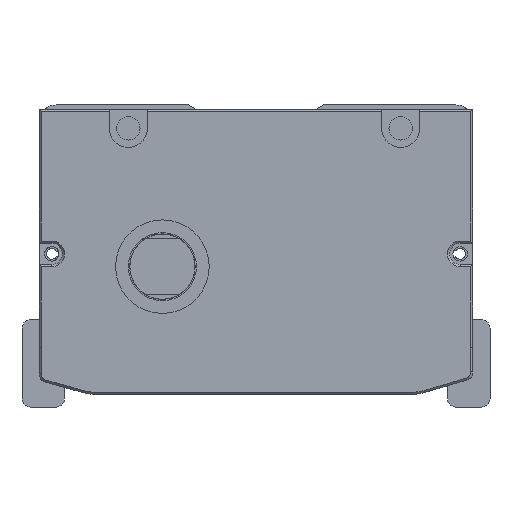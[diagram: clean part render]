
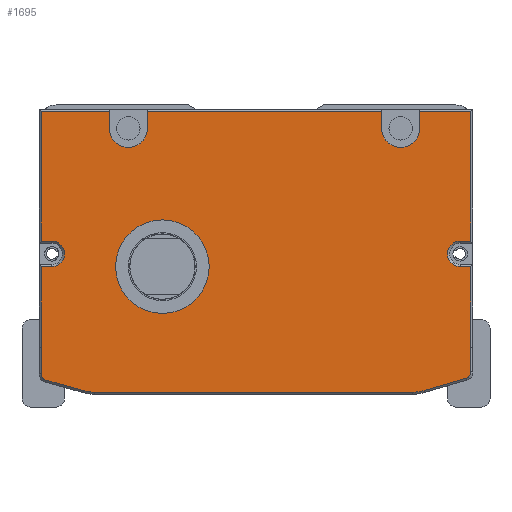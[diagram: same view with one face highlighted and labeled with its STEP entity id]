
A CAD part, front view. The second image highlights one B-rep face of the part: STEP entity #1695.
In plain terms, the highlighted planar face has unit normal (0, -1, 0).
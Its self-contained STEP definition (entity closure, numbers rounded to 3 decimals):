
#1022=FACE_BOUND('',#3565,.T.);
#1023=FACE_BOUND('',#3566,.T.);
#1695=ADVANCED_FACE('',(#1022,#1023),#2390,.F.);
#2390=PLANE('',#14510);
#3565=EDGE_LOOP('',(#6445));
#3566=EDGE_LOOP('',(#6446,#6447,#6448,#6449,#6450,#6451,#6452,#6453,#6454,
#6455,#6456,#6457,#6458,#6459,#6460,#6461,#6462,#6463,#6464,#6465,#6466,
#6467,#6468,#6469,#6470,#6471,#6472,#6473));
#4535=CIRCLE('',#14421,3.);
#4538=CIRCLE('',#14429,3.);
#4541=CIRCLE('',#14441,1.5);
#4543=CIRCLE('',#14445,9.5);
#4545=CIRCLE('',#14449,9.5);
#4547=CIRCLE('',#14453,1.5);
#4552=CIRCLE('',#14468,4.5);
#4556=CIRCLE('',#14474,4.5);
#4557=CIRCLE('',#14483,11.);
#6445=ORIENTED_EDGE('',*,*,#10926,.F.);
#6446=ORIENTED_EDGE('',*,*,#10820,.T.);
#6447=ORIENTED_EDGE('',*,*,#10716,.T.);
#6448=ORIENTED_EDGE('',*,*,#10907,.T.);
#6449=ORIENTED_EDGE('',*,*,#10720,.T.);
#6450=ORIENTED_EDGE('',*,*,#10955,.T.);
#6451=ORIENTED_EDGE('',*,*,#10726,.T.);
#6452=ORIENTED_EDGE('',*,*,#10903,.T.);
#6453=ORIENTED_EDGE('',*,*,#10730,.T.);
#6454=ORIENTED_EDGE('',*,*,#10956,.T.);
#6455=ORIENTED_EDGE('',*,*,#10824,.T.);
#6456=ORIENTED_EDGE('',*,*,#10830,.T.);
#6457=ORIENTED_EDGE('',*,*,#10833,.T.);
#6458=ORIENTED_EDGE('',*,*,#10836,.T.);
#6459=ORIENTED_EDGE('',*,*,#10838,.T.);
#6460=ORIENTED_EDGE('',*,*,#10868,.T.);
#6461=ORIENTED_EDGE('',*,*,#10872,.T.);
#6462=ORIENTED_EDGE('',*,*,#10875,.T.);
#6463=ORIENTED_EDGE('',*,*,#10878,.T.);
#6464=ORIENTED_EDGE('',*,*,#10881,.T.);
#6465=ORIENTED_EDGE('',*,*,#10884,.T.);
#6466=ORIENTED_EDGE('',*,*,#10887,.T.);
#6467=ORIENTED_EDGE('',*,*,#10889,.T.);
#6468=ORIENTED_EDGE('',*,*,#10866,.T.);
#6469=ORIENTED_EDGE('',*,*,#10856,.T.);
#6470=ORIENTED_EDGE('',*,*,#10853,.T.);
#6471=ORIENTED_EDGE('',*,*,#10850,.T.);
#6472=ORIENTED_EDGE('',*,*,#10847,.T.);
#6473=ORIENTED_EDGE('',*,*,#10842,.T.);
#9267=VERTEX_POINT('',#21323);
#9268=VERTEX_POINT('',#21325);
#9271=VERTEX_POINT('',#21332);
#9272=VERTEX_POINT('',#21334);
#9277=VERTEX_POINT('',#21345);
#9278=VERTEX_POINT('',#21347);
#9281=VERTEX_POINT('',#21354);
#9282=VERTEX_POINT('',#21356);
#9340=VERTEX_POINT('',#21542);
#9343=VERTEX_POINT('',#21550);
#9344=VERTEX_POINT('',#21551);
#9349=VERTEX_POINT('',#21562);
#9351=VERTEX_POINT('',#21568);
#9352=VERTEX_POINT('',#21573);
#9354=VERTEX_POINT('',#21579);
#9357=VERTEX_POINT('',#21587);
#9359=VERTEX_POINT('',#21593);
#9361=VERTEX_POINT('',#21599);
#9363=VERTEX_POINT('',#21605);
#9365=VERTEX_POINT('',#21611);
#9372=VERTEX_POINT('',#21635);
#9373=VERTEX_POINT('',#21639);
#9376=VERTEX_POINT('',#21646);
#9378=VERTEX_POINT('',#21652);
#9380=VERTEX_POINT('',#21658);
#9382=VERTEX_POINT('',#21664);
#9384=VERTEX_POINT('',#21670);
#9386=VERTEX_POINT('',#21676);
#9398=VERTEX_POINT('',#21749);
#10716=EDGE_CURVE('',#9268,#9267,#12363,.T.);
#10720=EDGE_CURVE('',#9272,#9271,#12367,.T.);
#10726=EDGE_CURVE('',#9278,#9277,#12373,.T.);
#10730=EDGE_CURVE('',#9282,#9281,#12377,.T.);
#10820=EDGE_CURVE('',#9340,#9268,#12450,.T.);
#10824=EDGE_CURVE('',#9343,#9344,#12454,.T.);
#10830=EDGE_CURVE('',#9344,#9349,#12460,.T.);
#10833=EDGE_CURVE('',#9349,#9351,#4535,.T.);
#10836=EDGE_CURVE('',#9351,#9352,#12464,.T.);
#10838=EDGE_CURVE('',#9352,#9354,#12466,.T.);
#10842=EDGE_CURVE('',#9357,#9340,#12470,.T.);
#10847=EDGE_CURVE('',#9359,#9357,#12475,.T.);
#10850=EDGE_CURVE('',#9361,#9359,#4538,.T.);
#10853=EDGE_CURVE('',#9363,#9361,#12479,.T.);
#10856=EDGE_CURVE('',#9365,#9363,#12482,.T.);
#10866=EDGE_CURVE('',#9372,#9365,#12490,.T.);
#10868=EDGE_CURVE('',#9354,#9373,#12492,.T.);
#10872=EDGE_CURVE('',#9373,#9376,#4541,.T.);
#10875=EDGE_CURVE('',#9376,#9378,#12497,.T.);
#10878=EDGE_CURVE('',#9378,#9380,#4543,.T.);
#10881=EDGE_CURVE('',#9380,#9382,#12501,.T.);
#10884=EDGE_CURVE('',#9382,#9384,#4545,.T.);
#10887=EDGE_CURVE('',#9384,#9386,#12505,.T.);
#10889=EDGE_CURVE('',#9386,#9372,#4547,.T.);
#10903=EDGE_CURVE('',#9277,#9282,#4552,.T.);
#10907=EDGE_CURVE('',#9267,#9272,#4556,.T.);
#10926=EDGE_CURVE('',#9398,#9398,#4557,.T.);
#10955=EDGE_CURVE('',#9271,#9278,#12556,.T.);
#10956=EDGE_CURVE('',#9281,#9343,#12557,.T.);
#12363=LINE('',#21324,#13305);
#12367=LINE('',#21333,#13309);
#12373=LINE('',#21346,#13315);
#12377=LINE('',#21355,#13319);
#12450=LINE('',#21541,#13392);
#12454=LINE('',#21549,#13396);
#12460=LINE('',#21563,#13402);
#12464=LINE('',#21575,#13406);
#12466=LINE('',#21578,#13408);
#12470=LINE('',#21586,#13412);
#12475=LINE('',#21596,#13417);
#12479=LINE('',#21608,#13421);
#12482=LINE('',#21614,#13424);
#12490=LINE('',#21634,#13432);
#12492=LINE('',#21638,#13434);
#12497=LINE('',#21653,#13439);
#12501=LINE('',#21665,#13443);
#12505=LINE('',#21677,#13447);
#12556=LINE('',#21811,#13498);
#12557=LINE('',#21812,#13499);
#13305=VECTOR('',#16633,1.);
#13309=VECTOR('',#16639,1.);
#13315=VECTOR('',#16647,1.);
#13319=VECTOR('',#16653,1.);
#13392=VECTOR('',#16820,1.);
#13396=VECTOR('',#16826,1.);
#13402=VECTOR('',#16834,1.);
#13406=VECTOR('',#16846,1.);
#13408=VECTOR('',#16850,1.);
#13412=VECTOR('',#16856,1.);
#13417=VECTOR('',#16863,1.);
#13421=VECTOR('',#16875,1.);
#13424=VECTOR('',#16880,1.);
#13432=VECTOR('',#16902,1.);
#13434=VECTOR('',#16906,1.);
#13439=VECTOR('',#16919,1.);
#13443=VECTOR('',#16931,1.);
#13447=VECTOR('',#16943,1.);
#13498=VECTOR('',#17110,1.);
#13499=VECTOR('',#17111,1.);
#14421=AXIS2_PLACEMENT_3D('',#21569,#16839,#16840);
#14429=AXIS2_PLACEMENT_3D('',#21602,#16869,#16870);
#14441=AXIS2_PLACEMENT_3D('',#21647,#16912,#16913);
#14445=AXIS2_PLACEMENT_3D('',#21659,#16924,#16925);
#14449=AXIS2_PLACEMENT_3D('',#21671,#16936,#16937);
#14453=AXIS2_PLACEMENT_3D('',#21680,#16947,#16948);
#14468=AXIS2_PLACEMENT_3D('',#21706,#16986,#16987);
#14474=AXIS2_PLACEMENT_3D('',#21714,#16998,#16999);
#14483=AXIS2_PLACEMENT_3D('',#21748,#17034,#17035);
#14510=AXIS2_PLACEMENT_3D('',#21813,#17112,#17113);
#16633=DIRECTION('',(0.,0.,-1.));
#16639=DIRECTION('',(0.,0.,1.));
#16647=DIRECTION('',(0.,0.,-1.));
#16653=DIRECTION('',(0.,0.,1.));
#16820=DIRECTION('',(-1.,0.,0.));
#16826=DIRECTION('',(0.,0.,-1.));
#16834=DIRECTION('',(1.,0.,0.));
#16839=DIRECTION('',(0.,1.,0.));
#16840=DIRECTION('',(0.,0.,1.));
#16846=DIRECTION('',(-1.,0.,0.));
#16850=DIRECTION('',(0.,0.,-1.));
#16856=DIRECTION('',(0.,0.,1.));
#16863=DIRECTION('',(1.,0.,0.));
#16869=DIRECTION('',(0.,1.,0.));
#16870=DIRECTION('',(0.,0.,1.));
#16875=DIRECTION('',(-1.,0.,0.));
#16880=DIRECTION('',(0.,0.,1.));
#16902=DIRECTION('',(0.,0.,1.));
#16906=DIRECTION('',(0.,0.,-1.));
#16912=DIRECTION('',(0.,-1.,0.));
#16913=DIRECTION('',(0.,0.,1.));
#16919=DIRECTION('',(0.963,0.,-0.269));
#16924=DIRECTION('',(0.,-1.,0.));
#16925=DIRECTION('',(0.,0.,1.));
#16931=DIRECTION('',(1.,0.,0.));
#16936=DIRECTION('',(0.,-1.,0.));
#16937=DIRECTION('',(0.,0.,1.));
#16943=DIRECTION('',(0.959,0.,0.282));
#16947=DIRECTION('',(0.,-1.,0.));
#16948=DIRECTION('',(0.,0.,1.));
#16986=DIRECTION('',(0.,1.,0.));
#16987=DIRECTION('',(0.,0.,1.));
#16998=DIRECTION('',(0.,1.,0.));
#16999=DIRECTION('',(0.,0.,1.));
#17034=DIRECTION('',(0.,-1.,0.));
#17035=DIRECTION('',(0.,0.,1.));
#17110=DIRECTION('',(-1.,0.,0.));
#17111=DIRECTION('',(-1.,0.,0.));
#17112=DIRECTION('',(0.,1.,0.));
#17113=DIRECTION('',(1.,0.,0.));
#21323=CARTESIAN_POINT('',(35.308,-7.5,-5.5));
#21324=CARTESIAN_POINT('',(35.308,-7.5,-1.));
#21325=CARTESIAN_POINT('',(35.308,-7.5,-1.5));
#21332=CARTESIAN_POINT('',(26.308,-7.5,-1.5));
#21333=CARTESIAN_POINT('',(26.308,-7.5,-1.));
#21334=CARTESIAN_POINT('',(26.308,-7.5,-5.5));
#21345=CARTESIAN_POINT('',(-28.692,-7.5,-5.5));
#21346=CARTESIAN_POINT('',(-28.692,-7.5,-1.));
#21347=CARTESIAN_POINT('',(-28.692,-7.5,-1.5));
#21354=CARTESIAN_POINT('',(-37.692,-7.5,-1.5));
#21355=CARTESIAN_POINT('',(-37.692,-7.5,-1.));
#21356=CARTESIAN_POINT('',(-37.692,-7.5,-5.5));
#21541=CARTESIAN_POINT('',(-53.692,-7.5,-1.5));
#21542=CARTESIAN_POINT('',(47.308,-7.5,-1.5));
#21549=CARTESIAN_POINT('',(-53.692,-7.5,-32.5));
#21550=CARTESIAN_POINT('',(-53.692,-7.5,-1.5));
#21551=CARTESIAN_POINT('',(-53.692,-7.5,-32.));
#21562=CARTESIAN_POINT('',(-51.192,-7.5,-32.));
#21563=CARTESIAN_POINT('',(-3.192,-7.5,-32.));
#21568=CARTESIAN_POINT('',(-51.192,-7.5,-38.));
#21569=CARTESIAN_POINT('',(-51.192,-7.5,-35.));
#21573=CARTESIAN_POINT('',(-53.692,-7.5,-38.));
#21575=CARTESIAN_POINT('',(-3.192,-7.5,-38.));
#21578=CARTESIAN_POINT('',(-53.692,-7.5,-57.));
#21579=CARTESIAN_POINT('',(-53.692,-7.5,-57.));
#21586=CARTESIAN_POINT('',(47.308,-7.5,-1.5));
#21587=CARTESIAN_POINT('',(47.308,-7.5,-32.));
#21593=CARTESIAN_POINT('',(44.808,-7.5,-32.));
#21596=CARTESIAN_POINT('',(-3.192,-7.5,-32.));
#21599=CARTESIAN_POINT('',(44.808,-7.5,-38.));
#21602=CARTESIAN_POINT('',(44.808,-7.5,-35.));
#21605=CARTESIAN_POINT('',(47.308,-7.5,-38.));
#21608=CARTESIAN_POINT('',(-3.192,-7.5,-38.));
#21611=CARTESIAN_POINT('',(47.308,-7.5,-57.));
#21614=CARTESIAN_POINT('',(47.308,-7.5,-37.5));
#21634=CARTESIAN_POINT('',(47.308,-7.5,-37.5));
#21635=CARTESIAN_POINT('',(47.308,-7.5,-62.758));
#21638=CARTESIAN_POINT('',(-53.692,-7.5,-59.712));
#21639=CARTESIAN_POINT('',(-53.692,-7.5,-63.212));
#21646=CARTESIAN_POINT('',(-52.596,-7.5,-64.657));
#21647=CARTESIAN_POINT('',(-52.192,-7.5,-63.212));
#21652=CARTESIAN_POINT('',(-43.674,-7.5,-67.15));
#21653=CARTESIAN_POINT('',(-43.674,-7.5,-67.15));
#21658=CARTESIAN_POINT('',(-41.118,-7.5,-67.5));
#21659=CARTESIAN_POINT('',(-41.118,-7.5,-58.));
#21664=CARTESIAN_POINT('',(33.631,-7.5,-67.5));
#21665=CARTESIAN_POINT('',(33.631,-7.5,-67.5));
#21670=CARTESIAN_POINT('',(36.312,-7.5,-67.114));
#21671=CARTESIAN_POINT('',(33.631,-7.5,-58.));
#21676=CARTESIAN_POINT('',(46.231,-7.5,-64.197));
#21677=CARTESIAN_POINT('',(46.231,-7.5,-64.197));
#21680=CARTESIAN_POINT('',(45.808,-7.5,-62.758));
#21706=CARTESIAN_POINT('',(-33.192,-7.5,-5.5));
#21714=CARTESIAN_POINT('',(30.808,-7.5,-5.5));
#21748=CARTESIAN_POINT('',(-25.192,-7.5,-38.));
#21749=CARTESIAN_POINT('',(-25.192,-7.5,-27.));
#21811=CARTESIAN_POINT('',(-53.692,-7.5,-1.5));
#21812=CARTESIAN_POINT('',(-53.692,-7.5,-1.5));
#21813=CARTESIAN_POINT('',(-3.192,-7.5,-1.));
